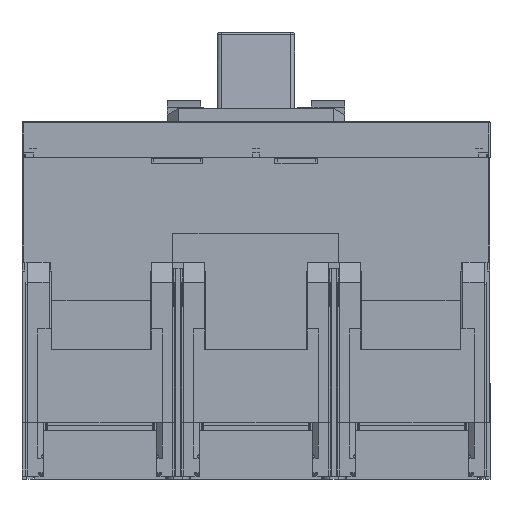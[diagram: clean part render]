
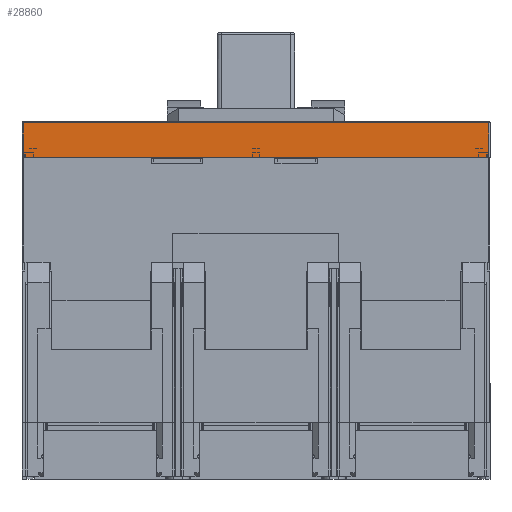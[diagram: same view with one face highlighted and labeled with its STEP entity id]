
A CAD part, front view. The second image highlights one B-rep face of the part: STEP entity #28860.
In plain terms, the highlighted planar face has unit normal (0, -1, 0).
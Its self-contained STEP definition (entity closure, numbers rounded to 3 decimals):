
#14759 = VECTOR ( 'NONE', #96428, 1000. ) ;
#25731 = DIRECTION ( 'NONE',  ( 0., -1., 0. ) ) ;
#27721 = DIRECTION ( 'NONE',  ( 0., 0., -1. ) ) ;
#28860 = ADVANCED_FACE ( 'NONE', ( #184842 ), #141600, .T. ) ;
#51016 = VERTEX_POINT ( 'NONE', #192840 ) ;
#53538 = EDGE_CURVE ( 'NONE', #73846, #95616, #133360, .T. ) ;
#56339 = ORIENTED_EDGE ( 'NONE', *, *, #243304, .T. ) ;
#70911 = CARTESIAN_POINT ( 'NONE',  ( 278.629, 45.867, 200.428 ) ) ;
#72560 = LINE ( 'NONE', #289256, #229317 ) ;
#73846 = VERTEX_POINT ( 'NONE', #218351 ) ;
#74325 = DIRECTION ( 'NONE',  ( 1., 0., 0. ) ) ;
#75388 = CARTESIAN_POINT ( 'NONE',  ( 69.629, 45.867, 200.428 ) ) ;
#81618 = EDGE_CURVE ( 'NONE', #51016, #190263, #72560, .T. ) ;
#85207 = CARTESIAN_POINT ( 'NONE',  ( 278.629, 45.867, 184.428 ) ) ;
#89907 = CARTESIAN_POINT ( 'NONE',  ( 69.629, 45.867, 199.928 ) ) ;
#95616 = VERTEX_POINT ( 'NONE', #85207 ) ;
#96428 = DIRECTION ( 'NONE',  ( 0., 0., -1. ) ) ;
#107051 = DIRECTION ( 'NONE',  ( -1., 0., 0. ) ) ;
#118217 = LINE ( 'NONE', #75388, #14759 ) ;
#133360 = LINE ( 'NONE', #167032, #204587 ) ;
#141600 = PLANE ( 'NONE',  #222207 ) ;
#152758 = ORIENTED_EDGE ( 'NONE', *, *, #81618, .T. ) ;
#158311 = VECTOR ( 'NONE', #251319, 1000. ) ;
#161479 = EDGE_LOOP ( 'NONE', ( #183953, #56339, #152758, #184903 ) ) ;
#167032 = CARTESIAN_POINT ( 'NONE',  ( 121.629, 45.867, 184.428 ) ) ;
#183953 = ORIENTED_EDGE ( 'NONE', *, *, #53538, .T. ) ;
#184842 = FACE_OUTER_BOUND ( 'NONE', #161479, .T. ) ;
#184903 = ORIENTED_EDGE ( 'NONE', *, *, #277055, .T. ) ;
#190263 = VERTEX_POINT ( 'NONE', #89907 ) ;
#192840 = CARTESIAN_POINT ( 'NONE',  ( 278.629, 45.867, 199.928 ) ) ;
#204587 = VECTOR ( 'NONE', #74325, 1000. ) ;
#218351 = CARTESIAN_POINT ( 'NONE',  ( 69.629, 45.867, 184.428 ) ) ;
#218908 = LINE ( 'NONE', #70911, #158311 ) ;
#222207 = AXIS2_PLACEMENT_3D ( 'NONE', #279898, #25731, #27721 ) ;
#229317 = VECTOR ( 'NONE', #107051, 1000. ) ;
#243304 = EDGE_CURVE ( 'NONE', #95616, #51016, #218908, .T. ) ;
#251319 = DIRECTION ( 'NONE',  ( 0., 0., 1. ) ) ;
#277055 = EDGE_CURVE ( 'NONE', #190263, #73846, #118217, .T. ) ;
#279898 = CARTESIAN_POINT ( 'NONE',  ( 121.629, 45.867, 200.428 ) ) ;
#289256 = CARTESIAN_POINT ( 'NONE',  ( 121.629, 45.867, 199.928 ) ) ;
